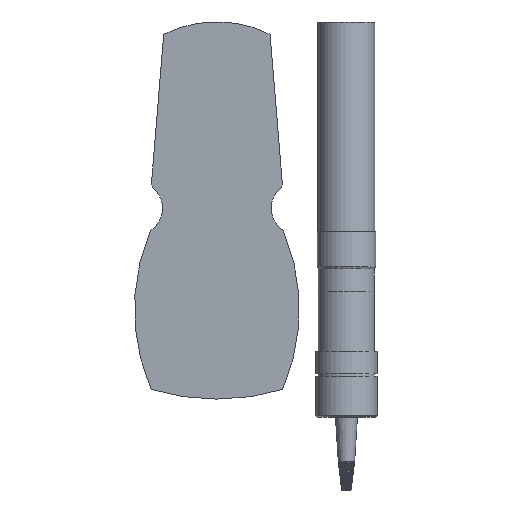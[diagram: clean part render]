
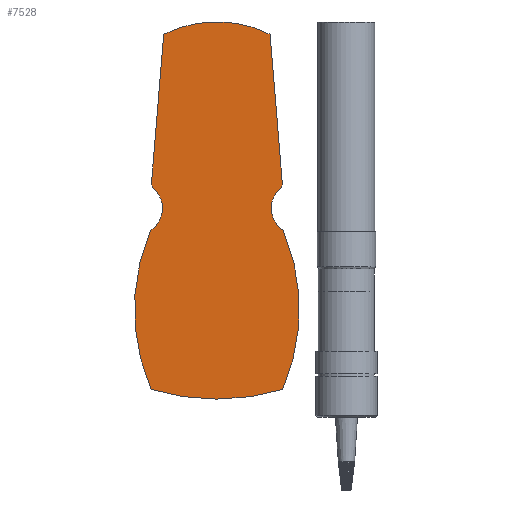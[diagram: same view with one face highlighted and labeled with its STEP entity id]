
A CAD part, front view. The second image highlights one B-rep face of the part: STEP entity #7528.
In plain terms, the highlighted planar face has unit normal (0, -1, 0).
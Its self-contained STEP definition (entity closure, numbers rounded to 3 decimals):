
#1=CARTESIAN_POINT('',(-2.852,0.,43.674));
#2=DIRECTION('',(0.,1.,0.));
#3=DIRECTION('',(0.286,0.,-0.958));
#4=AXIS2_PLACEMENT_3D('',#1,#2,#3);
#6=CARTESIAN_POINT('',(131.064,0.,-113.466));
#7=DIRECTION('',(0.,1.,0.));
#8=DIRECTION('',(-0.917,0.,-0.399));
#9=AXIS2_PLACEMENT_3D('',#6,#7,#8);
#11=CARTESIAN_POINT('',(-71.384,0.,-29.615));
#12=DIRECTION('',(0.,1.,0.));
#13=DIRECTION('',(-0.924,0.,0.383));
#14=AXIS2_PLACEMENT_3D('',#11,#12,#13);
#16=CARTESIAN_POINT('',(-93.201,0.,0.));
#17=DIRECTION('',(0.,-1.,0.));
#18=DIRECTION('',(0.593,0.,-0.805));
#19=AXIS2_PLACEMENT_3D('',#16,#17,#18);
#21=CARTESIAN_POINT('',(-66.273,0.,28.678));
#22=DIRECTION('',(0.,1.,0.));
#23=DIRECTION('',(-0.685,0.,-0.729));
#24=AXIS2_PLACEMENT_3D('',#21,#22,#23);
#26=DIRECTION('',(0.082,0.,0.997));
#27=VECTOR('',#26,166.842);
#28=CARTESIAN_POINT('',(-76.363,0.,29.507));
#29=LINE('',#28,#27);
#30=CARTESIAN_POINT('',(-4.769,0.,81.572));
#31=DIRECTION('',(0.,1.,0.));
#32=DIRECTION('',(-0.452,0.,0.892));
#33=AXIS2_PLACEMENT_3D('',#30,#31,#32);
#35=CARTESIAN_POINT('',(-0.935,0.,81.572));
#36=DIRECTION('',(0.,1.,0.));
#37=DIRECTION('',(-0.015,0.,1.));
#38=AXIS2_PLACEMENT_3D('',#35,#36,#37);
#40=DIRECTION('',(0.082,0.,-0.997));
#41=VECTOR('',#40,166.842);
#42=CARTESIAN_POINT('',(57.,0.,195.788));
#43=LINE('',#42,#41);
#44=CARTESIAN_POINT('',(60.569,0.,28.678));
#45=DIRECTION('',(0.,1.,0.));
#46=DIRECTION('',(0.997,0.,0.082));
#47=AXIS2_PLACEMENT_3D('',#44,#45,#46);
#49=CARTESIAN_POINT('',(87.497,0.,0.));
#50=DIRECTION('',(0.,-1.,0.));
#51=DIRECTION('',(-0.685,0.,0.729));
#52=AXIS2_PLACEMENT_3D('',#49,#50,#51);
#54=CARTESIAN_POINT('',(65.68,0.,-29.615));
#55=DIRECTION('',(0.,1.,0.));
#56=DIRECTION('',(0.593,0.,0.805));
#57=AXIS2_PLACEMENT_3D('',#54,#55,#56);
#59=CARTESIAN_POINT('',(-136.768,0.,-113.466));
#60=DIRECTION('',(0.,1.,0.));
#61=DIRECTION('',(0.924,0.,0.383));
#62=AXIS2_PLACEMENT_3D('',#59,#60,#61);
#5627=CARTESIAN_POINT('',(71.097,0.,-203.924));
#5628=CARTESIAN_POINT('',(-76.801,0.,-203.924));
#5629=VERTEX_POINT('',#5627);
#5630=VERTEX_POINT('',#5628);
#5631=CARTESIAN_POINT('',(-78.377,0.,-26.719));
#5632=VERTEX_POINT('',#5631);
#5633=CARTESIAN_POINT('',(-75.874,0.,-23.521));
#5634=VERTEX_POINT('',#5633);
#5635=CARTESIAN_POINT('',(-73.203,0.,21.297));
#5636=VERTEX_POINT('',#5635);
#5637=CARTESIAN_POINT('',(-76.363,0.,29.507));
#5638=VERTEX_POINT('',#5637);
#5639=CARTESIAN_POINT('',(-62.704,0.,195.788));
#5640=VERTEX_POINT('',#5639);
#5641=CARTESIAN_POINT('',(-2.852,0.,209.627));
#5642=VERTEX_POINT('',#5641);
#5643=CARTESIAN_POINT('',(57.,0.,195.788));
#5644=VERTEX_POINT('',#5643);
#5645=CARTESIAN_POINT('',(70.659,0.,29.507));
#5646=VERTEX_POINT('',#5645);
#5647=CARTESIAN_POINT('',(67.499,0.,21.297));
#5648=VERTEX_POINT('',#5647);
#5649=CARTESIAN_POINT('',(70.17,0.,-23.521));
#5650=VERTEX_POINT('',#5649);
#5651=CARTESIAN_POINT('',(72.673,0.,-26.719));
#5652=VERTEX_POINT('',#5651);
#7495=CARTESIAN_POINT('',(0.,0.,0.));
#7496=DIRECTION('',(0.,1.,0.));
#7497=DIRECTION('',(1.,0.,0.));
#7498=AXIS2_PLACEMENT_3D('',#7495,#7496,#7497);
#7499=PLANE('',#7498);
#7501=ORIENTED_EDGE('',*,*,#7500,.T.);
#7503=ORIENTED_EDGE('',*,*,#7502,.T.);
#7505=ORIENTED_EDGE('',*,*,#7504,.T.);
#7507=ORIENTED_EDGE('',*,*,#7506,.T.);
#7509=ORIENTED_EDGE('',*,*,#7508,.T.);
#7511=ORIENTED_EDGE('',*,*,#7510,.T.);
#7513=ORIENTED_EDGE('',*,*,#7512,.T.);
#7515=ORIENTED_EDGE('',*,*,#7514,.T.);
#7517=ORIENTED_EDGE('',*,*,#7516,.T.);
#7519=ORIENTED_EDGE('',*,*,#7518,.T.);
#7521=ORIENTED_EDGE('',*,*,#7520,.T.);
#7523=ORIENTED_EDGE('',*,*,#7522,.T.);
#7525=ORIENTED_EDGE('',*,*,#7524,.T.);
#7526=EDGE_LOOP('',(#7501,#7503,#7505,#7507,#7509,#7511,#7513,#7515,#7517,#7519,
#7521,#7523,#7525));
#7527=FACE_OUTER_BOUND('',#7526,.F.);
#7528=ADVANCED_FACE('',(#7527),#7499,.F.);
#5=CIRCLE('',#4,258.405);
#10=CIRCLE('',#9,226.695);
#15=CIRCLE('',#14,7.569);
#20=CIRCLE('',#19,29.215);
#25=CIRCLE('',#24,10.124);
#34=CIRCLE('',#33,128.07);
#39=CIRCLE('',#38,128.07);
#48=CIRCLE('',#47,10.124);
#53=CIRCLE('',#52,29.215);
#58=CIRCLE('',#57,7.569);
#63=CIRCLE('',#62,226.695);
#7500=EDGE_CURVE('',#5629,#5630,#5,.T.);
#7502=EDGE_CURVE('',#5630,#5632,#10,.T.);
#7504=EDGE_CURVE('',#5632,#5634,#15,.T.);
#7506=EDGE_CURVE('',#5634,#5636,#20,.T.);
#7508=EDGE_CURVE('',#5636,#5638,#25,.T.);
#7510=EDGE_CURVE('',#5638,#5640,#29,.T.);
#7512=EDGE_CURVE('',#5640,#5642,#34,.T.);
#7514=EDGE_CURVE('',#5642,#5644,#39,.T.);
#7516=EDGE_CURVE('',#5644,#5646,#43,.T.);
#7518=EDGE_CURVE('',#5646,#5648,#48,.T.);
#7520=EDGE_CURVE('',#5648,#5650,#53,.T.);
#7522=EDGE_CURVE('',#5650,#5652,#58,.T.);
#7524=EDGE_CURVE('',#5652,#5629,#63,.T.);
